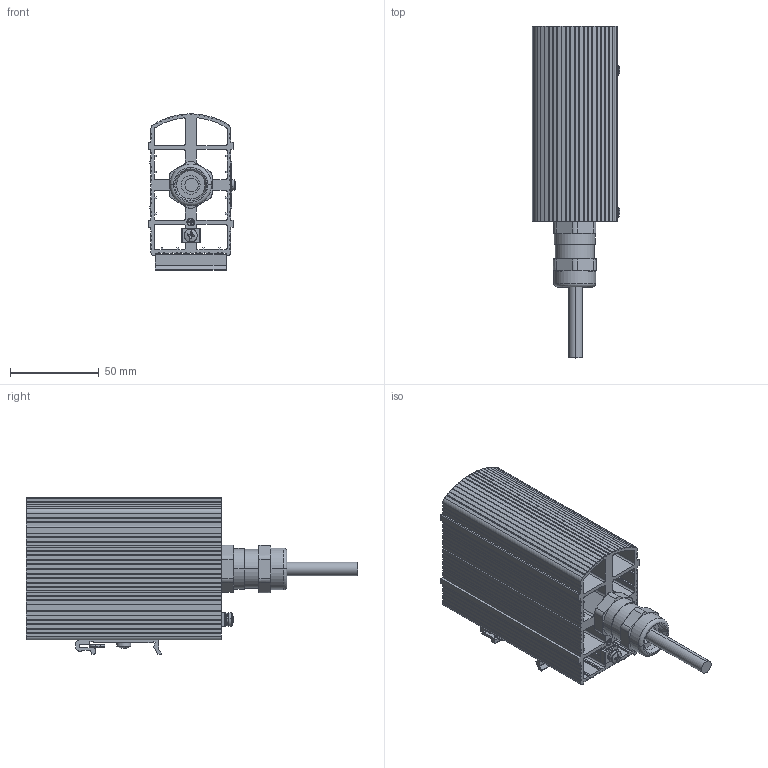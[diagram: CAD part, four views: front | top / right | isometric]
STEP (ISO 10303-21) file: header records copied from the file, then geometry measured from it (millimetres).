
FILE_DESCRIPTION (( 'STEP AP214' ), '1' );
FILE_NAME ('02041.x-0x_Ex-Heizgeraet.STEP', '2017-08-09T08:59:46', ( '' ), ( '' ), 'SwSTEP 2.0', 'SolidWorks 2017', '' );
FILE_SCHEMA (( 'AUTOMOTIVE_DESIGN' ));
Length unit declared in the file: millimetre
Products named in the file (1): 02041.x-0x_Ex-Heizgeraet
Bounding box: 49.42 x 187 x 88 mm (x, y, z)
Surface area: 109661.9 mm2 (no closed solid volume)
Topology: 0 solids, 15 shells, 696 faces, 2201 edges, 1476 vertices
Faces by surface type: plane 480, cylinder 133, cone 56, torus 18, sphere 8, bspline 1
Entity records: 32179 total; most frequent: CARTESIAN_POINT 5028, ORIENTED_EDGE 4073, DIRECTION 3892, EDGE_CURVE 2201, VECTOR 1654, LINE 1654, VERTEX_POINT 1476, AXIS2_PLACEMENT_3D 1119
